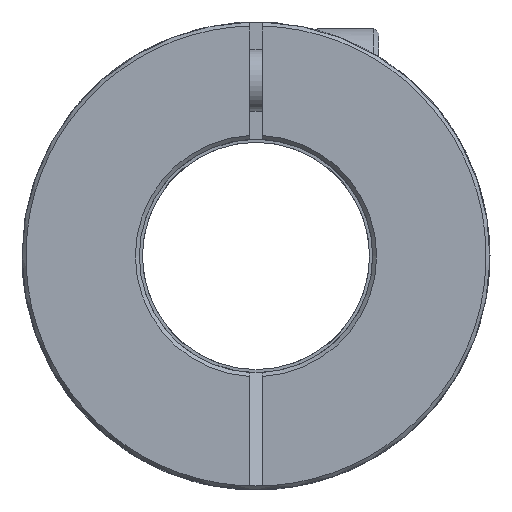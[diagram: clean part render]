
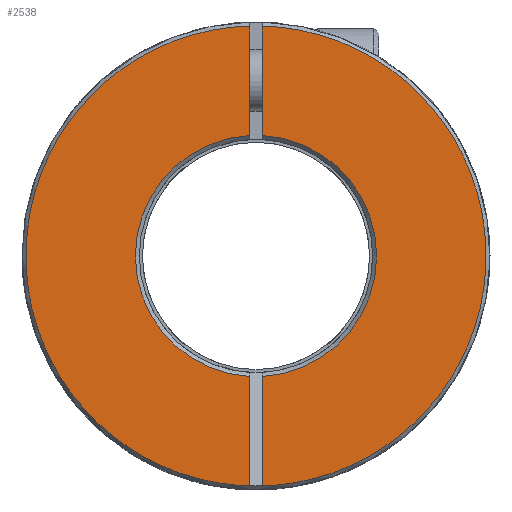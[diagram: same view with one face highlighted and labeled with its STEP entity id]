
A CAD part, front view. The second image highlights one B-rep face of the part: STEP entity #2538.
In plain terms, the highlighted planar face has unit normal (0, -1, 0).
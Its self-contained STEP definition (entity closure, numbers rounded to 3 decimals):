
#1=DIRECTION('',(0.,0.,-1.));
#2=VECTOR('',#1,8.916);
#3=CARTESIAN_POINT('',(-0.5,-25.,18.723));
#4=LINE('',#3,#2);
#5=DIRECTION('',(0.,0.,-1.));
#6=VECTOR('',#5,8.893);
#7=CARTESIAN_POINT('',(-0.5,-25.,-9.807));
#8=LINE('',#7,#6);
#9=DIRECTION('',(1.,0.,0.));
#10=VECTOR('',#9,1.);
#11=CARTESIAN_POINT('',(-0.5,-25.,-18.7));
#12=LINE('',#11,#10);
#13=DIRECTION('',(0.,0.,-1.));
#14=VECTOR('',#13,8.893);
#15=CARTESIAN_POINT('',(0.5,-25.,-9.807));
#16=LINE('',#15,#14);
#17=DIRECTION('',(0.,0.,-1.));
#18=VECTOR('',#17,8.916);
#19=CARTESIAN_POINT('',(0.5,-25.,18.723));
#20=LINE('',#19,#18);
#35=CARTESIAN_POINT('',(0.,-25.,0.));
#36=DIRECTION('',(0.,-1.,0.));
#37=DIRECTION('',(-0.027,0.,1.));
#38=AXIS2_PLACEMENT_3D('',#35,#36,#37);
#80=CARTESIAN_POINT('',(0.,-25.,0.));
#81=DIRECTION('',(0.,1.,0.));
#82=DIRECTION('',(-0.051,0.,-0.999));
#83=AXIS2_PLACEMENT_3D('',#80,#81,#82);
#92=CARTESIAN_POINT('',(0.,-25.,0.));
#93=DIRECTION('',(0.,1.,0.));
#94=DIRECTION('',(0.051,0.,0.999));
#95=AXIS2_PLACEMENT_3D('',#92,#93,#94);
#2373=CARTESIAN_POINT('',(-0.5,-25.,18.723));
#2374=CARTESIAN_POINT('',(-0.5,-25.,9.807));
#2375=VERTEX_POINT('',#2373);
#2376=VERTEX_POINT('',#2374);
#2377=CARTESIAN_POINT('',(-0.5,-25.,-9.807));
#2378=CARTESIAN_POINT('',(-0.5,-25.,-18.7));
#2379=VERTEX_POINT('',#2377);
#2380=VERTEX_POINT('',#2378);
#2381=CARTESIAN_POINT('',(0.5,-25.,18.723));
#2382=CARTESIAN_POINT('',(0.5,-25.,9.807));
#2383=VERTEX_POINT('',#2381);
#2384=VERTEX_POINT('',#2382);
#2385=CARTESIAN_POINT('',(0.5,-25.,-9.807));
#2386=CARTESIAN_POINT('',(0.5,-25.,-18.7));
#2387=VERTEX_POINT('',#2385);
#2388=VERTEX_POINT('',#2386);
#2515=CARTESIAN_POINT('',(0.,-25.,0.));
#2516=DIRECTION('',(0.,1.,0.));
#2517=DIRECTION('',(1.,0.,0.));
#2518=AXIS2_PLACEMENT_3D('',#2515,#2516,#2517);
#2519=PLANE('',#2518);
#2521=ORIENTED_EDGE('',*,*,#2520,.T.);
#2523=ORIENTED_EDGE('',*,*,#2522,.F.);
#2525=ORIENTED_EDGE('',*,*,#2524,.T.);
#2527=ORIENTED_EDGE('',*,*,#2526,.T.);
#2529=ORIENTED_EDGE('',*,*,#2528,.F.);
#2531=ORIENTED_EDGE('',*,*,#2530,.F.);
#2533=ORIENTED_EDGE('',*,*,#2532,.F.);
#2535=ORIENTED_EDGE('',*,*,#2534,.F.);
#2536=EDGE_LOOP('',(#2521,#2523,#2525,#2527,#2529,#2531,#2533,#2535));
#2537=FACE_OUTER_BOUND('',#2536,.F.);
#2538=ADVANCED_FACE('',(#2537),#2519,.F.);
#39=CIRCLE('',#38,18.73);
#84=CIRCLE('',#83,9.82);
#96=CIRCLE('',#95,9.82);
#2520=EDGE_CURVE('',#2375,#2376,#4,.T.);
#2522=EDGE_CURVE('',#2379,#2376,#84,.T.);
#2524=EDGE_CURVE('',#2379,#2380,#8,.T.);
#2526=EDGE_CURVE('',#2380,#2388,#12,.T.);
#2528=EDGE_CURVE('',#2387,#2388,#16,.T.);
#2530=EDGE_CURVE('',#2384,#2387,#96,.T.);
#2532=EDGE_CURVE('',#2383,#2384,#20,.T.);
#2534=EDGE_CURVE('',#2375,#2383,#39,.T.);
